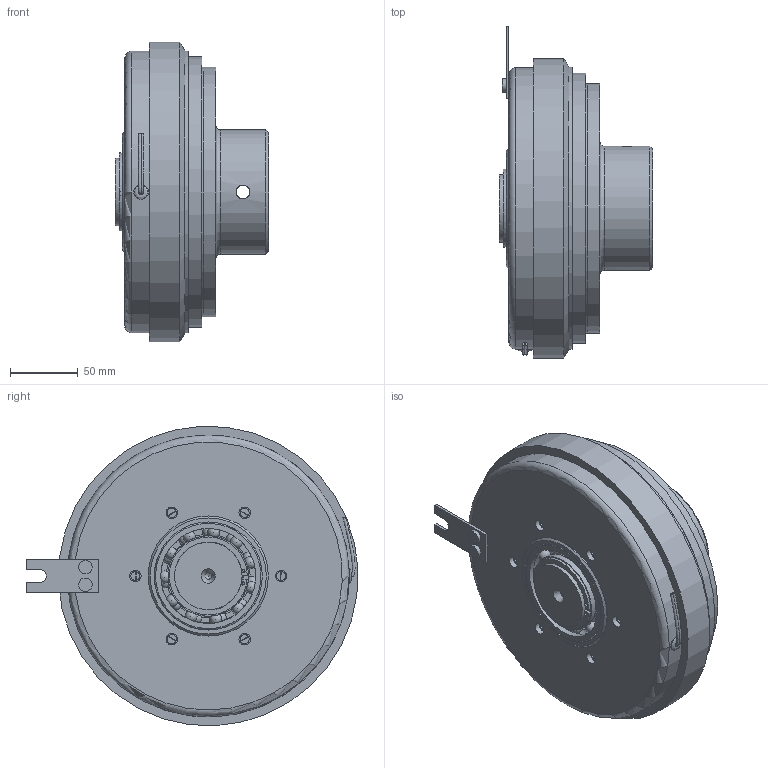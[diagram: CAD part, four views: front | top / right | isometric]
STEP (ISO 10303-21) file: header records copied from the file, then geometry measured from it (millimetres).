
FILE_DESCRIPTION(/* description */ (''),/* implementation_level */ '2;1');
FILE_NAME(/* name */ 'X:\INVENTOR\DISEGNI\08_Freni_Friz_Elettmag_Monodisco\08_25 EMSL\08_25_210_02 EMSL210_ME\08_25_210_02 EMSL210_ME@STEP.stp',/* time_stamp */ '2023-03-22T09:58:57+01:00',/* author */ ('alessio'),/* organization */ (''),/* preprocessor_version */ 'ST-DEVELOPER v18.1',/* originating_system */ 'Autodesk Inventor 2021',/* authorisation */ '');
FILE_SCHEMA (('AUTOMOTIVE_DESIGN { 1 0 10303 214 3 1 1 }'));
Length unit declared in the file: millimetre
Products named in the file (1): 08_25_210_02 EMSL210_ME
Bounding box: 113.5 x 245.89 x 221.79 mm (x, y, z)
Volume: 1756889.1 mm3; surface area: 399390.9 mm2
Topology: 3 solids, 9 shells, 422 faces, 1141 edges, 726 vertices
Faces by surface type: cylinder 146, plane 120, cone 71, torus 60, sphere 22, bspline 3
Full cylindrical faces by diameter (mm): 2.5 x2, 3 x5, 4 x1, 5 x2, 6 x2, 6.647 x6, 7 x8, 8.1 x3, 8.2 x3, 8.376 x3, 8.5 x6, 9 x1, 10 x2, 10.106 x2, 10.2 x3, 11 x3, 12 x3, 25 x7, 47 x1, 50 x4, 59.6 x4, 62 x1, 70.4 x4, 80 x4, 89 x1, 92 x1, 100 x2, 107 x1, 108 x1, 120.5 x1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
Entity records: 16251 total; most frequent: CARTESIAN_POINT 5206, DIRECTION 2369, ORIENTED_EDGE 2198, EDGE_CURVE 1099, AXIS2_PLACEMENT_3D 1048, VERTEX_POINT 727, CIRCLE 628, EDGE_LOOP 580
